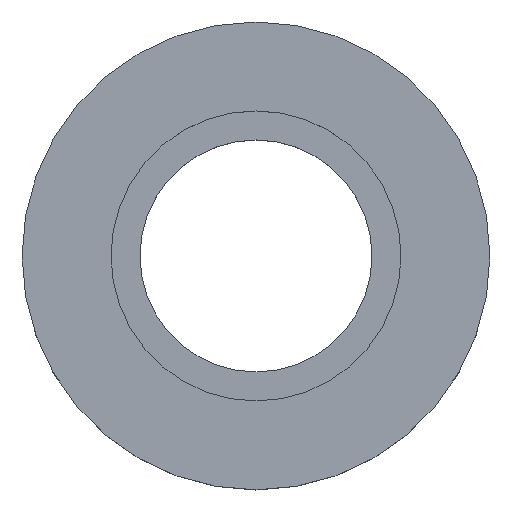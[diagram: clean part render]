
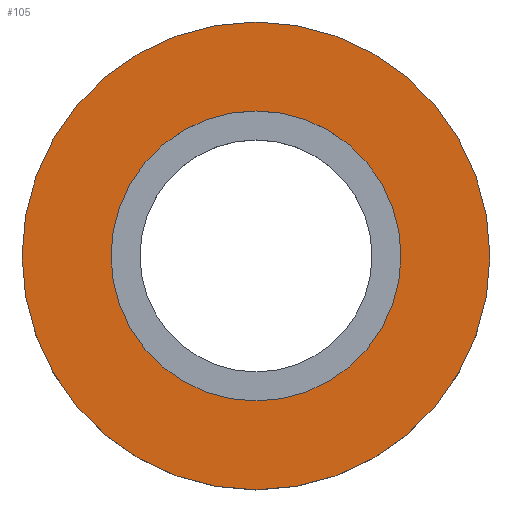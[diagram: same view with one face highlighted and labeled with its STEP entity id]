
A CAD part, top view. The second image highlights one B-rep face of the part: STEP entity #105.
In plain terms, the highlighted planar face has unit normal (0, 0, 1).
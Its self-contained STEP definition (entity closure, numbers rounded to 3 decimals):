
#21 = EDGE_CURVE('',#22,#22,#24,.T.);
#22 = VERTEX_POINT('',#23);
#23 = CARTESIAN_POINT('',(12.1,0.,0.));
#24 = SURFACE_CURVE('',#25,(#30,#42),.PCURVE_S1.);
#25 = CIRCLE('',#26,12.1);
#26 = AXIS2_PLACEMENT_3D('',#27,#28,#29);
#27 = CARTESIAN_POINT('',(0.,0.,0.));
#28 = DIRECTION('',(0.,0.,1.));
#29 = DIRECTION('',(1.,0.,-0.));
#30 = PCURVE('',#31,#36);
#31 = CYLINDRICAL_SURFACE('',#32,12.1);
#32 = AXIS2_PLACEMENT_3D('',#33,#34,#35);
#33 = CARTESIAN_POINT('',(0.,0.,-4.));
#34 = DIRECTION('',(0.,0.,1.));
#35 = DIRECTION('',(1.,0.,-0.));
#36 = DEFINITIONAL_REPRESENTATION('',(#37),#41);
#37 = LINE('',#38,#39);
#38 = CARTESIAN_POINT('',(0.,4.));
#39 = VECTOR('',#40,1.);
#40 = DIRECTION('',(1.,0.));
#41 = ( GEOMETRIC_REPRESENTATION_CONTEXT(2) 
PARAMETRIC_REPRESENTATION_CONTEXT() REPRESENTATION_CONTEXT('2D SPACE',''
  ) );
#42 = PCURVE('',#43,#48);
#43 = PLANE('',#44);
#44 = AXIS2_PLACEMENT_3D('',#45,#46,#47);
#45 = CARTESIAN_POINT('',(0.,0.,0.));
#46 = DIRECTION('',(0.,0.,1.));
#47 = DIRECTION('',(1.,0.,-0.));
#48 = DEFINITIONAL_REPRESENTATION('',(#49),#53);
#49 = CIRCLE('',#50,12.1);
#50 = AXIS2_PLACEMENT_2D('',#51,#52);
#51 = CARTESIAN_POINT('',(0.,0.));
#52 = DIRECTION('',(1.,0.));
#53 = ( GEOMETRIC_REPRESENTATION_CONTEXT(2) 
PARAMETRIC_REPRESENTATION_CONTEXT() REPRESENTATION_CONTEXT('2D SPACE',''
  ) );
#105 = ADVANCED_FACE('',(#106,#109),#43,.T.);
#106 = FACE_BOUND('',#107,.T.);
#107 = EDGE_LOOP('',(#108));
#108 = ORIENTED_EDGE('',*,*,#21,.T.);
#109 = FACE_BOUND('',#110,.T.);
#110 = EDGE_LOOP('',(#111));
#111 = ORIENTED_EDGE('',*,*,#112,.F.);
#112 = EDGE_CURVE('',#113,#113,#115,.T.);
#113 = VERTEX_POINT('',#114);
#114 = CARTESIAN_POINT('',(7.5,0.,0.));
#115 = SURFACE_CURVE('',#116,(#121,#128),.PCURVE_S1.);
#116 = CIRCLE('',#117,7.5);
#117 = AXIS2_PLACEMENT_3D('',#118,#119,#120);
#118 = CARTESIAN_POINT('',(0.,0.,0.));
#119 = DIRECTION('',(0.,0.,1.));
#120 = DIRECTION('',(1.,0.,-0.));
#121 = PCURVE('',#43,#122);
#122 = DEFINITIONAL_REPRESENTATION('',(#123),#127);
#123 = CIRCLE('',#124,7.5);
#124 = AXIS2_PLACEMENT_2D('',#125,#126);
#125 = CARTESIAN_POINT('',(0.,0.));
#126 = DIRECTION('',(1.,0.));
#127 = ( GEOMETRIC_REPRESENTATION_CONTEXT(2) 
PARAMETRIC_REPRESENTATION_CONTEXT() REPRESENTATION_CONTEXT('2D SPACE',''
  ) );
#128 = PCURVE('',#129,#134);
#129 = CYLINDRICAL_SURFACE('',#130,7.5);
#130 = AXIS2_PLACEMENT_3D('',#131,#132,#133);
#131 = CARTESIAN_POINT('',(0.,0.,-1.));
#132 = DIRECTION('',(0.,0.,1.));
#133 = DIRECTION('',(1.,0.,-0.));
#134 = DEFINITIONAL_REPRESENTATION('',(#135),#139);
#135 = LINE('',#136,#137);
#136 = CARTESIAN_POINT('',(0.,1.));
#137 = VECTOR('',#138,1.);
#138 = DIRECTION('',(1.,0.));
#139 = ( GEOMETRIC_REPRESENTATION_CONTEXT(2) 
PARAMETRIC_REPRESENTATION_CONTEXT() REPRESENTATION_CONTEXT('2D SPACE',''
  ) );
